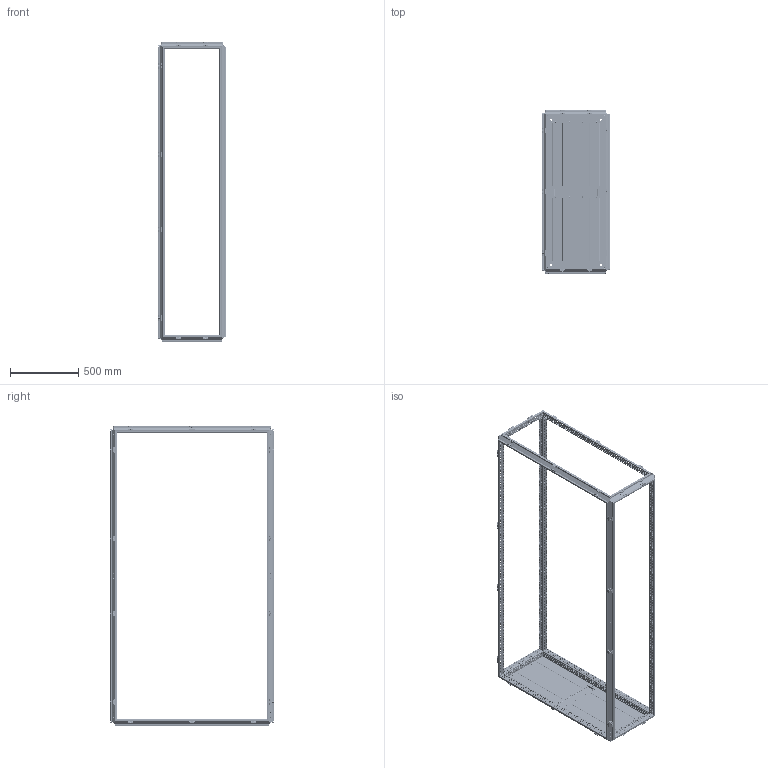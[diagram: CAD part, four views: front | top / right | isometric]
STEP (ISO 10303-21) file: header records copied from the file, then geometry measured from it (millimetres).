
FILE_DESCRIPTION(('STEP AP203'), '1');
FILE_NAME('3000 忺謤僔 捘', '', ('UNSPECIFIED'), ('UNSPECIFIED'), 'C3D Converter', 'C3D Toolkit', '');
FILE_SCHEMA(('CONFIG_CONTROL_DESIGN'));
Length unit declared in the file: millimetre
Products named in the file (13): 3000.220.120.50 СБ; 3000; 3007.75; 3007.200; 3006; 3009.04; 3009.04.01; 3009.04.2; 3009.04.01.2
Assembly tree (156 placements, depth 3):
  3000.220.120.50 СБ
    3000
    (unnamed)  x96
    3007.75  x4
    (unnamed)  x18
    3007.200  x2
    3006
    3009.04  x10
      3009.04.01
      (unnamed)
      (unnamed)
    3009.04.2  x15
      3009.04.01.2
      (unnamed)
      (unnamed)
Bounding box: 497 x 1197 x 2198.5 mm (x, y, z)
Volume: 4750103.8 mm3; surface area: 6317608 mm2
Topology: 253 solids, 253 shells, 19849 faces, 55743 edges, 36784 vertices
Faces by surface type: plane 13913, cylinder 4836, cone 716, torus 260, bspline 124
Full cylindrical faces by diameter (mm): 4.134 x136, 4.5 x2326, 4.8 x18, 5 x148, 5.8 x40, 6.8 x192, 7 x96, 7.5 x50, 8 x96, 9.2 x50, 10.106 x8, 14 x4
Entity records: 456044 total; most frequent: CARTESIAN_POINT 83245, ORIENTED_EDGE 73398, DIRECTION 69341, EDGE_CURVE 36699, LINE 30295, VECTOR 30295, VERTEX_POINT 25910, EDGE_LOOP 25251
